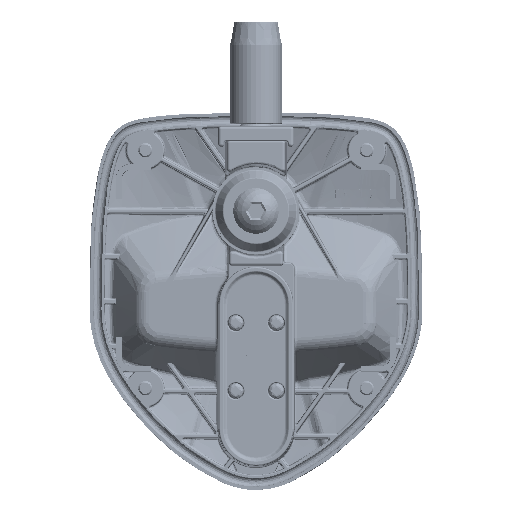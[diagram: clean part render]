
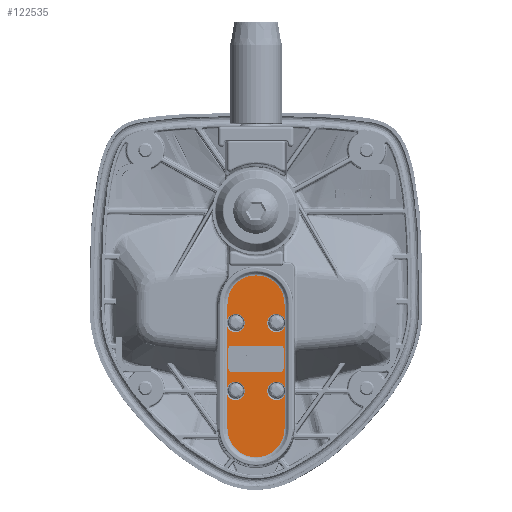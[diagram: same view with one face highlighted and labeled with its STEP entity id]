
A CAD part, top view. The second image highlights one B-rep face of the part: STEP entity #122535.
In plain terms, the highlighted planar face has unit normal (0, 0, 1) as drawn and (0, 1, 0) by its records, which use the part's own axes.
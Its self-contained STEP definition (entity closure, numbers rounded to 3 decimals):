
#106128=CARTESIAN_POINT('',(14.386,4.,9.829));
#106143=CARTESIAN_POINT('',(11.614,4.,9.829));
#106148=CARTESIAN_POINT('',(37.786,4.,9.829));
#106163=CARTESIAN_POINT('',(35.014,4.,9.829));
#106191=CARTESIAN_POINT('',(13.,4.,7.));
#106192=DIRECTION('',(0.,-1.,0.));
#106193=DIRECTION('',(-0.44,0.,0.898));
#106194=AXIS2_PLACEMENT_3D('',#106191,#106192,#106193);
#106207=DIRECTION('',(1.,0.,0.));
#106208=VECTOR('',#106207,20.627);
#106209=CARTESIAN_POINT('',(14.386,4.,-9.829));
#106210=LINE('',#106209,#106208);
#106214=DIRECTION('',(1.,0.,0.));
#106215=VECTOR('',#106214,5.214);
#106216=CARTESIAN_POINT('',(37.786,4.,-9.829));
#106217=LINE('',#106216,#106215);
#106221=CARTESIAN_POINT('',(43.,4.,0.));
#106222=DIRECTION('',(0.,-1.,0.));
#106223=DIRECTION('',(0.,0.,-1.));
#106224=AXIS2_PLACEMENT_3D('',#106221,#106222,#106223);
#106229=DIRECTION('',(-1.,0.,0.));
#106230=VECTOR('',#106229,5.214);
#106231=CARTESIAN_POINT('',(43.,4.,9.829));
#106232=LINE('',#106231,#106230);
#106236=DIRECTION('',(-1.,0.,0.));
#106237=VECTOR('',#106236,20.627);
#106238=CARTESIAN_POINT('',(35.014,4.,9.829));
#106239=LINE('',#106238,#106237);
#106243=DIRECTION('',(-1.,0.,0.));
#106244=VECTOR('',#106243,11.614);
#106245=CARTESIAN_POINT('',(11.614,4.,9.829));
#106246=LINE('',#106245,#106244);
#106250=CARTESIAN_POINT('',(0.,4.,0.));
#106251=DIRECTION('',(0.,-1.,0.));
#106252=DIRECTION('',(0.,0.,1.));
#106253=AXIS2_PLACEMENT_3D('',#106250,#106251,#106252);
#106258=DIRECTION('',(1.,0.,0.));
#106259=VECTOR('',#106258,11.614);
#106260=CARTESIAN_POINT('',(0.,4.,-9.829));
#106261=LINE('',#106260,#106259);
#106265=DIRECTION('',(0.,0.,-1.));
#106266=VECTOR('',#106265,17.);
#106267=CARTESIAN_POINT('',(28.616,4.,8.5));
#106268=LINE('',#106267,#106266);
#106272=DIRECTION('',(-1.,0.,0.));
#106273=VECTOR('',#106272,7.);
#106274=CARTESIAN_POINT('',(27.616,4.,-9.5));
#106275=LINE('',#106274,#106273);
#106279=DIRECTION('',(0.,0.,1.));
#106280=VECTOR('',#106279,17.);
#106281=CARTESIAN_POINT('',(19.616,4.,-8.5));
#106282=LINE('',#106281,#106280);
#106286=DIRECTION('',(1.,0.,0.));
#106287=VECTOR('',#106286,7.);
#106288=CARTESIAN_POINT('',(20.616,4.,9.5));
#106289=LINE('',#106288,#106287);
#106301=CARTESIAN_POINT('',(13.,4.,-7.));
#106302=DIRECTION('',(0.,-1.,0.));
#106303=DIRECTION('',(0.44,0.,-0.898));
#106304=AXIS2_PLACEMENT_3D('',#106301,#106302,#106303);
#117827=CARTESIAN_POINT('',(36.4,4.,-7.));
#117828=DIRECTION('',(0.,-1.,0.));
#117829=DIRECTION('',(0.44,0.,-0.898));
#117830=AXIS2_PLACEMENT_3D('',#117827,#117828,#117829);
#117851=CARTESIAN_POINT('',(11.614,4.,-9.829));
#117866=CARTESIAN_POINT('',(14.386,4.,-9.829));
#117886=CARTESIAN_POINT('',(35.014,4.,-9.829));
#117901=CARTESIAN_POINT('',(37.786,4.,-9.829));
#118280=CARTESIAN_POINT('',(36.4,4.,7.));
#118281=DIRECTION('',(0.,-1.,0.));
#118282=DIRECTION('',(-0.44,0.,0.898));
#118283=AXIS2_PLACEMENT_3D('',#118280,#118281,#118282);
#118318=CARTESIAN_POINT('',(27.616,4.,8.5));
#118319=DIRECTION('',(0.,-1.,0.));
#118320=DIRECTION('',(1.,0.,0.));
#118321=AXIS2_PLACEMENT_3D('',#118318,#118319,#118320);
#120109=CARTESIAN_POINT('',(20.616,4.,8.5));
#120110=DIRECTION('',(0.,-1.,0.));
#120111=DIRECTION('',(0.,0.,1.));
#120112=AXIS2_PLACEMENT_3D('',#120109,#120110,#120111);
#120131=CARTESIAN_POINT('',(20.616,4.,-8.5));
#120132=DIRECTION('',(0.,-1.,0.));
#120133=DIRECTION('',(-1.,0.,0.));
#120134=AXIS2_PLACEMENT_3D('',#120131,#120132,#120133);
#120153=CARTESIAN_POINT('',(27.616,4.,-8.5));
#120154=DIRECTION('',(0.,-1.,0.));
#120155=DIRECTION('',(0.,0.,-1.));
#120156=AXIS2_PLACEMENT_3D('',#120153,#120154,#120155);
#120249=CARTESIAN_POINT('',(43.,4.,-9.829));
#120250=CARTESIAN_POINT('',(43.,4.,9.829));
#120251=VERTEX_POINT('',#120249);
#120252=VERTEX_POINT('',#120250);
#120257=CARTESIAN_POINT('',(0.,4.,9.829));
#120258=CARTESIAN_POINT('',(0.,4.,-9.829));
#120259=VERTEX_POINT('',#120257);
#120260=VERTEX_POINT('',#120258);
#120287=VERTEX_POINT('',#117851);
#120288=VERTEX_POINT('',#117866);
#120294=VERTEX_POINT('',#106128);
#120295=VERTEX_POINT('',#106143);
#120303=VERTEX_POINT('',#106148);
#120304=VERTEX_POINT('',#106163);
#120312=VERTEX_POINT('',#117886);
#120313=VERTEX_POINT('',#117901);
#121400=CARTESIAN_POINT('',(28.616,4.,8.5));
#121401=VERTEX_POINT('',#121400);
#121402=CARTESIAN_POINT('',(27.616,4.,9.5));
#121403=VERTEX_POINT('',#121402);
#121408=CARTESIAN_POINT('',(27.616,4.,-9.5));
#121409=VERTEX_POINT('',#121408);
#121410=CARTESIAN_POINT('',(28.616,4.,-8.5));
#121411=VERTEX_POINT('',#121410);
#121416=CARTESIAN_POINT('',(19.616,4.,-8.5));
#121417=VERTEX_POINT('',#121416);
#121418=CARTESIAN_POINT('',(20.616,4.,-9.5));
#121419=VERTEX_POINT('',#121418);
#121424=CARTESIAN_POINT('',(20.616,4.,9.5));
#121425=VERTEX_POINT('',#121424);
#121426=CARTESIAN_POINT('',(19.616,4.,8.5));
#121427=VERTEX_POINT('',#121426);
#122490=CARTESIAN_POINT('',(0.,4.,0.));
#122491=DIRECTION('',(0.,1.,0.));
#122492=DIRECTION('',(1.,0.,0.));
#122493=AXIS2_PLACEMENT_3D('',#122490,#122491,#122492);
#122494=PLANE('',#122493);
#122496=ORIENTED_EDGE('',*,*,#122495,.F.);
#122498=ORIENTED_EDGE('',*,*,#122497,.T.);
#122500=ORIENTED_EDGE('',*,*,#122499,.F.);
#122502=ORIENTED_EDGE('',*,*,#122501,.T.);
#122504=ORIENTED_EDGE('',*,*,#122503,.T.);
#122505=ORIENTED_EDGE('',*,*,#122356,.T.);
#122507=ORIENTED_EDGE('',*,*,#122506,.F.);
#122508=ORIENTED_EDGE('',*,*,#122352,.T.);
#122509=ORIENTED_EDGE('',*,*,#122470,.F.);
#122510=ORIENTED_EDGE('',*,*,#122363,.T.);
#122512=ORIENTED_EDGE('',*,*,#122511,.T.);
#122514=ORIENTED_EDGE('',*,*,#122513,.T.);
#122515=EDGE_LOOP('',(#122496,#122498,#122500,#122502,#122504,#122505,#122507,
#122508,#122509,#122510,#122512,#122514));
#122516=FACE_OUTER_BOUND('',#122515,.F.);
#122518=ORIENTED_EDGE('',*,*,#122517,.T.);
#122520=ORIENTED_EDGE('',*,*,#122519,.F.);
#122522=ORIENTED_EDGE('',*,*,#122521,.T.);
#122524=ORIENTED_EDGE('',*,*,#122523,.F.);
#122526=ORIENTED_EDGE('',*,*,#122525,.T.);
#122528=ORIENTED_EDGE('',*,*,#122527,.F.);
#122530=ORIENTED_EDGE('',*,*,#122529,.T.);
#122532=ORIENTED_EDGE('',*,*,#122531,.F.);
#122533=EDGE_LOOP('',(#122518,#122520,#122522,#122524,#122526,#122528,#122530,
#122532));
#122534=FACE_BOUND('',#122533,.F.);
#106195=CIRCLE('',#106194,3.15);
#106225=CIRCLE('',#106224,9.829);
#106254=CIRCLE('',#106253,9.829);
#106305=CIRCLE('',#106304,3.15);
#117831=CIRCLE('',#117830,3.15);
#118284=CIRCLE('',#118283,3.15);
#118322=CIRCLE('',#118321,1.);
#120113=CIRCLE('',#120112,1.);
#120135=CIRCLE('',#120134,1.);
#120157=CIRCLE('',#120156,1.);
#122352=EDGE_CURVE('',#120304,#120294,#106239,.T.);
#122356=EDGE_CURVE('',#120252,#120303,#106232,.T.);
#122363=EDGE_CURVE('',#120295,#120259,#106246,.T.);
#122470=EDGE_CURVE('',#120295,#120294,#106195,.T.);
#122495=EDGE_CURVE('',#120288,#120287,#106305,.T.);
#122497=EDGE_CURVE('',#120288,#120312,#106210,.T.);
#122499=EDGE_CURVE('',#120313,#120312,#117831,.T.);
#122501=EDGE_CURVE('',#120313,#120251,#106217,.T.);
#122503=EDGE_CURVE('',#120251,#120252,#106225,.T.);
#122506=EDGE_CURVE('',#120304,#120303,#118284,.T.);
#122511=EDGE_CURVE('',#120259,#120260,#106254,.T.);
#122513=EDGE_CURVE('',#120260,#120287,#106261,.T.);
#122517=EDGE_CURVE('',#121401,#121411,#106268,.T.);
#122519=EDGE_CURVE('',#121409,#121411,#120157,.T.);
#122521=EDGE_CURVE('',#121409,#121419,#106275,.T.);
#122523=EDGE_CURVE('',#121417,#121419,#120135,.T.);
#122525=EDGE_CURVE('',#121417,#121427,#106282,.T.);
#122527=EDGE_CURVE('',#121425,#121427,#120113,.T.);
#122529=EDGE_CURVE('',#121425,#121403,#106289,.T.);
#122531=EDGE_CURVE('',#121401,#121403,#118322,.T.);
#122535=ADVANCED_FACE('',(#122516,#122534),#122494,.T.);
